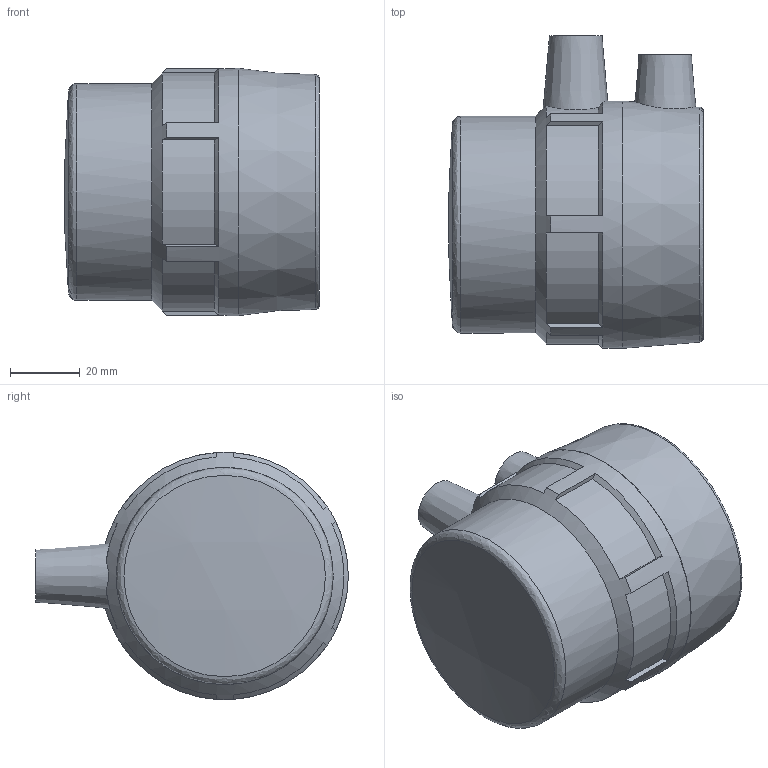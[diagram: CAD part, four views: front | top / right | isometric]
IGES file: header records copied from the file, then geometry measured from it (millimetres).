
Global section: file name: 498304050.ipt; native system: Autodesk Inventor 2015; preprocessor: unknown; author: KIM; date: 20171106.094444; units: millimetre
Bounding box: 72.86 x 89.34 x 70.68 mm (x, y, z)
Volume: 143547.6 mm3; surface area: 34656.6 mm2
Topology: 1 solids, 1 shells, 59 faces, 162 edges, 111 vertices
Faces by surface type: plane 21, revolution 15, cylinder 11, cone 11, sphere 1
Full cylindrical faces by diameter (mm): 4 x2, 62 x1, 70.68 x1
